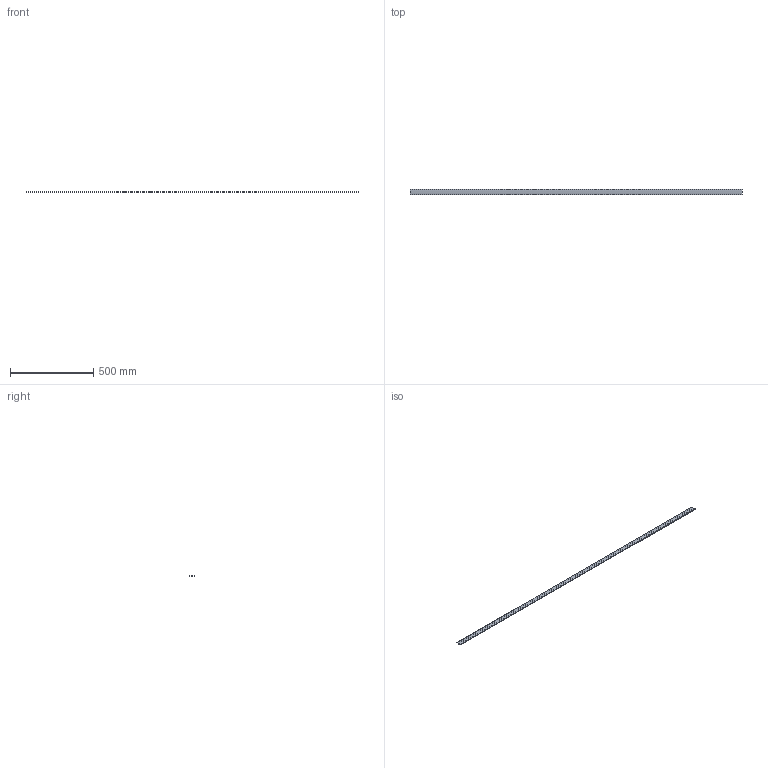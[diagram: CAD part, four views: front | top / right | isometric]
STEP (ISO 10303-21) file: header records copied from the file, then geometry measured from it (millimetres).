
FILE_DESCRIPTION(('CAx-IF Rec.Pracs.---Model Styling and Organization---1.2---2011-12-15','CAx-IF Rec.Pracs.---Geometric and Assembly Validation Properties---4.1---2014-06-16','CAx-IF Rec.Pracs.---PMI Polyline Presentation---2.0---2013-05-24'),'2;1');
FILE_NAME('01VYQ3AY0C.stp','2016-06-17T11:27:30+02:00',(''),(''),'STEP Interface 4.0 Sp1 by CT CoreTechnologie','3D_Evolution4.0 Sp1 by CT CoreTechnologie','');
FILE_SCHEMA(('AP203_CONFIGURATION_CONTROLLED_3D_DESIGN_OF_MECHANICAL_PARTS_AND_ASSEMBLIES_MIM_LF'));
Length unit declared in the file: metre
Products named in the file (1): 01VYQ3AY0C
Bounding box: 2000 x 30.9 x 5.84 mm (x, y, z)
Volume: 224859.6 mm3; surface area: 138888.2 mm2
Topology: 1 solids, 1 shells, 20 faces, 54 edges, 36 vertices
Faces by surface type: plane 13, cylinder 7
Entity records: 1073 total; most frequent: CARTESIAN_POINT 111, DIRECTION 110, ORIENTED_EDGE 108, PROPERTY_DEFINITION 85, EDGE_CURVE 54, REPRESENTATION 43, GENERAL_PROPERTY 43, PROPERTY_DEFINITION_REPRESENTATION 43
